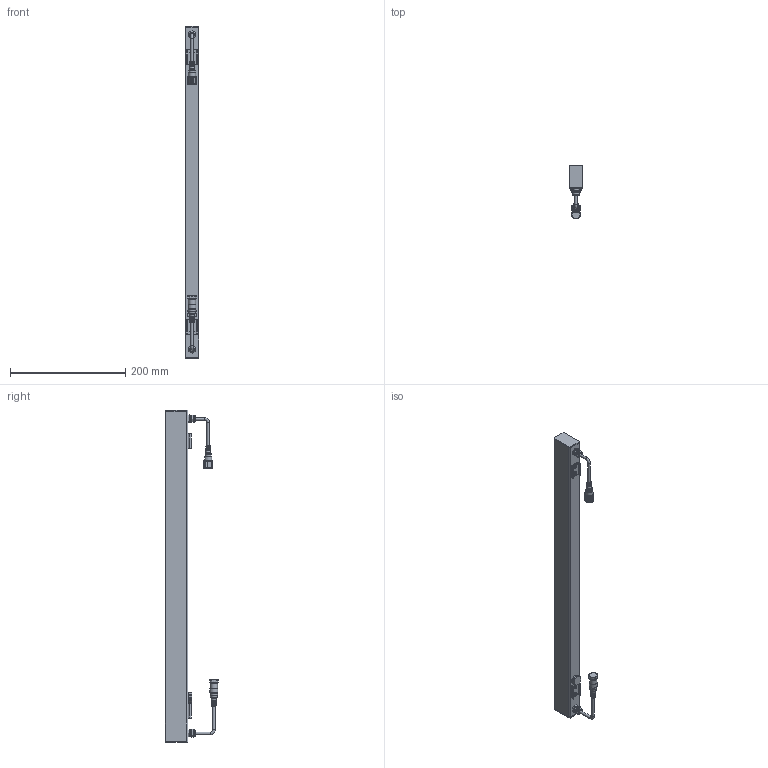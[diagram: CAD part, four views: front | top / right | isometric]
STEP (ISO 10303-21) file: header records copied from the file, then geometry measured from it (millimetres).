
FILE_DESCRIPTION(/* description */ ('Unknown'),/* implementation_level */ '2;1');
FILE_NAME(/* name */ 'PASEO X 22.7',/* time_stamp */ '2023-01-24T04:39:11-05:00',/* author */ ('Unknown'),/* organization */ ('Unknown'),/* preprocessor_version */ 'ST-DEVELOPER v18.1',/* originating_system */ 'Solid Edge',/* authorisation */ 'Unknown');
FILE_SCHEMA (('AUTOMOTIVE_DESIGN {1 0 10303 214 3 1 1}'));
Length unit declared in the file: millimetre
Products named in the file (1): PASEO X 22.7
Bounding box: 24 x 92.11 x 575.35 mm (x, y, z)
Volume: 553623.8 mm3; surface area: 82671.7 mm2
Topology: 1 solids, 1 shells, 431 faces, 1111 edges, 714 vertices
Faces by surface type: plane 213, cylinder 146, cone 42, torus 30
Full cylindrical faces by diameter (mm): 4.262 x2, 4.591 x2, 5.5 x4, 6.962 x2, 7 x4, 8.043 x1, 8.085 x2, 8.223 x3, 8.583 x1, 8.637 x1, 8.821 x3, 9.311 x1, 10 x2, 10.804 x1, 12 x5, 12.544 x1, 12.682 x2, 13.602 x1, 14.5 x1, 16 x1
Entity records: 15704 total; most frequent: CARTESIAN_POINT 2371, DIRECTION 2248, ORIENTED_EDGE 2002, EDGE_CURVE 1001, AXIS2_PLACEMENT_3D 888, VERTEX_POINT 692, EDGE_LOOP 561, FACE_BOUND 561
